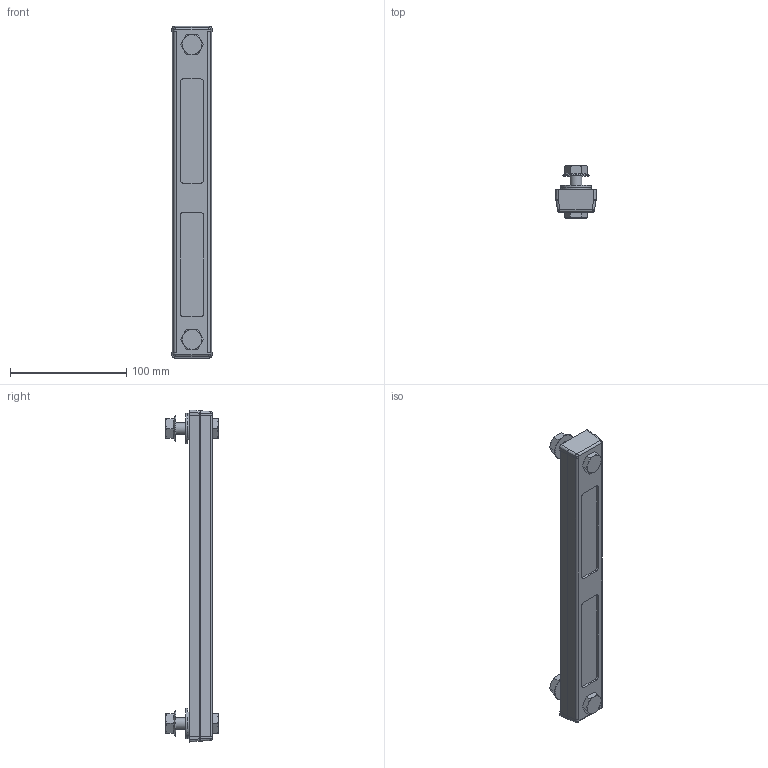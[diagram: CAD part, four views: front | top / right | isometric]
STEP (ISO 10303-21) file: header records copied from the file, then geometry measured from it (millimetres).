
FILE_DESCRIPTION((''),'2;1');
FILE_NAME('U:\Users\a.heinl\c53529.stp','2013-05-24T16:28:21',('User'), ('SDRC'),'I-DEAS Master Series 9','UNIX','Yes');
FILE_SCHEMA(('AUTOMOTIVE_DESIGN { 1 0 10303 214 1 1 1 1 }'));
Length unit declared in the file: millimetre
Products named in the file (1): 13727400(319311)
Bounding box: 34.5 x 45 x 286 mm (x, y, z)
Volume: 190473.6 mm3; surface area: 36467.3 mm2
Topology: 1 solids, 1 shells, 174 faces, 400 edges, 238 vertices
Faces by surface type: bspline 174
Entity records: 5107 total; most frequent: CARTESIAN_POINT 2841, ORIENTED_EDGE 784, EDGE_CURVE 392, VERTEX_POINT 238, EDGE_LOOP 192, FACE_OUTER_BOUND 174, ADVANCED_FACE 174, B_SPLINE_CURVE_WITH_KNOTS 150
